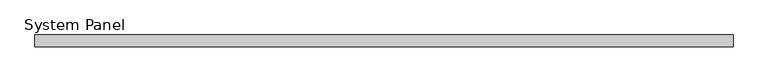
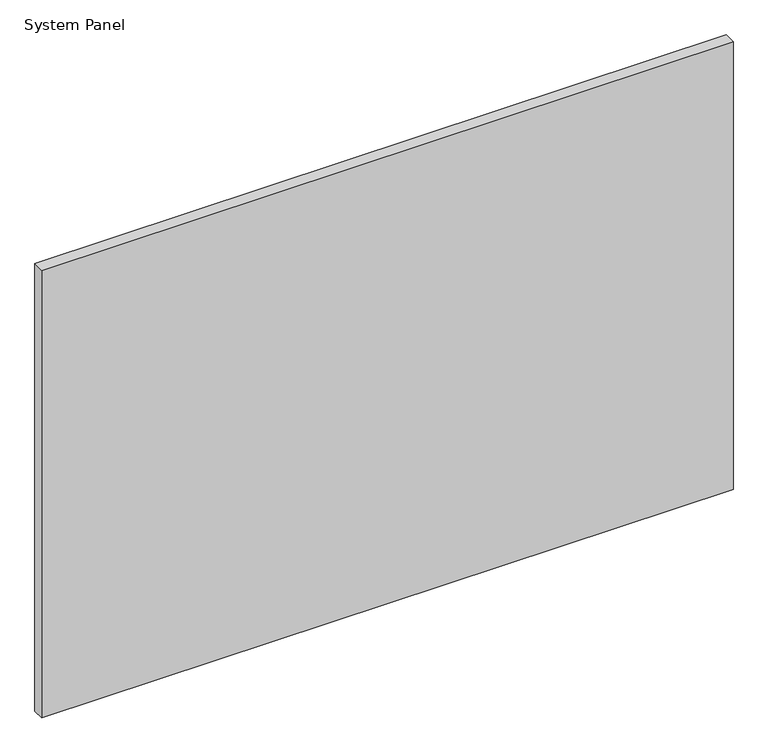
"""IFC4 building model written with IfcOpenShell, lengths in millimetres: plate geometry, System Panel : Glazed - ACMP (AL-1)."""

import ifcopenshell
import ifcopenshell.guid

model = None  # the IFC model being written
_history = None  # IfcOwnerHistory: only IFC2X3 demands one
_inside = {}  # id of a spatial element -> (the spatial element, [elements in it])
_under = {}  # id of a project, library or spatial element -> (it, [spatial elements below it])
_declared = {}  # id of a project -> (the project, [libraries it declares])
_typed = {}  # id of a type object -> (the type object, [elements of that type])
_made_of = {}  # id of a material, layer set ... -> (it, [elements and type objects made of it])


def new_model(schema):
    """Start an empty IFC model of exactly this schema.

    Asked for "IFC4X3", IfcOpenShell would pick the latest addendum, in which some entities
    have other attributes; the version numbers below select the first issue.
    IFC2X3 requires an IfcOwnerHistory on every rooted entity: one is made here for all.
    """
    global model, _history
    if schema == "IFC4X3":
        model = ifcopenshell.file(schema_version=(4, 3, 0, 0))
    else:
        model = ifcopenshell.file(schema=schema)
    _inside.clear()
    _under.clear()
    _declared.clear()
    _typed.clear()
    _made_of.clear()
    _history = None
    if model.schema == "IFC2X3":
        org = make("IfcOrganization", Name="unknown")
        user = make(
            "IfcPersonAndOrganization",
            ThePerson=make("IfcPerson", FamilyName="unknown"),
            TheOrganization=org,
        )
        app = make(
            "IfcApplication",
            ApplicationDeveloper=org,
            Version="unknown",
            ApplicationFullName="unknown",
            ApplicationIdentifier="unknown",
        )
        _history = make(
            "IfcOwnerHistory",
            OwningUser=user,
            OwningApplication=app,
            ChangeAction="ADDED",
            CreationDate=0,
        )
    return model


def make(cls, **values):
    """One entity of the class cls with the attributes given. An attribute that is None is left unset."""
    return model.create_entity(
        cls, **{name: value for name, value in values.items() if value is not None}
    )


def rooted(cls, **values):
    """An entity with a GlobalId (a new one), such as an element, a storey or a relation."""
    return make(cls, GlobalId=ifcopenshell.guid.new(), OwnerHistory=_history, **values)


def si_unit(unit_type, name, prefix=None):
    """IfcSIUnit, for example si_unit("LENGTHUNIT", "METRE", prefix="MILLI")."""
    return make("IfcSIUnit", UnitType=unit_type, Prefix=prefix, Name=name)


def assignment(units):
    """IfcUnitAssignment: the units of a project."""
    return None if units is None else make("IfcUnitAssignment", Units=units)


def point(xyz):
    """IfcCartesianPoint."""
    return None if xyz is None else make("IfcCartesianPoint", Coordinates=xyz)


def direction(xyz):
    """IfcDirection."""
    return None if xyz is None else make("IfcDirection", DirectionRatios=xyz)


def frame(location, z_axis=None, x_axis=None):
    """IfcAxis2Placement3D, a coordinate frame: its origin and axes. An axis left out is left unset."""
    return make(
        "IfcAxis2Placement3D",
        Location=point(location),
        Axis=direction(z_axis),
        RefDirection=direction(x_axis),
    )


def origin():
    """The frame at (0, 0, 0) with its axes left unset."""
    return frame((0.0, 0.0, 0.0))


def origin_with_axes():
    """The frame at (0, 0, 0) with the z axis (0, 0, 1) and the x axis (1, 0, 0) written out."""
    return frame((0.0, 0.0, 0.0), z_axis=(0.0, 0.0, 1.0), x_axis=(1.0, 0.0, 0.0))


def place(relative_to, where):
    """IfcLocalPlacement: puts the frame where relative to a parent placement (None: the world)."""
    return make(
        "IfcLocalPlacement", PlacementRelTo=relative_to, RelativePlacement=where
    )


def context(
    kind, dimensions, precision=None, world=None, true_north=None, identifier=None
):
    """IfcGeometricRepresentationContext, for example the 3D "Model" context."""
    return make(
        "IfcGeometricRepresentationContext",
        ContextIdentifier=identifier,
        ContextType=kind,
        CoordinateSpaceDimension=dimensions,
        Precision=precision,
        WorldCoordinateSystem=world,
        TrueNorth=true_north,
    )


def project(units=None, contexts=None):
    """IfcProject with its units and contexts."""
    return rooted(
        "IfcProject",
        Name="project",
        RepresentationContexts=contexts,
        UnitsInContext=assignment(units),
    )


def spatial(cls, under=None, at=None, **own):
    """A site, building, storey or space (cls), placed at a placement, below another one or the project."""
    s = rooted(cls, ObjectPlacement=at, **own)
    if under is not None:
        _under.setdefault(under.id(), (under, []))[1].append(s)
    return s


def polyline(points):
    """IfcPolyline through the points."""
    return make("IfcPolyline", Points=[point(p) for p in points])


def outline(outer, holes=None, kind="AREA"):
    """IfcArbitraryClosedProfileDef: a profile drawn as a closed curve; with holes, ...WithVoids."""
    if holes is None:
        return make("IfcArbitraryClosedProfileDef", ProfileType=kind, OuterCurve=outer)
    return make(
        "IfcArbitraryProfileDefWithVoids",
        ProfileType=kind,
        OuterCurve=outer,
        InnerCurves=holes,
    )


def extrude(swept, where, along, depth):
    """IfcExtrudedAreaSolid: the profile swept, set in the frame where, extruded along a direction by depth."""
    return make(
        "IfcExtrudedAreaSolid",
        SweptArea=swept,
        Position=where,
        ExtrudedDirection=direction(along),
        Depth=depth,
    )


def shape(context_of_items, identifier, shape_type, items):
    """IfcShapeRepresentation: the items that make up one representation, for example the "Body"."""
    return make(
        "IfcShapeRepresentation",
        ContextOfItems=context_of_items,
        RepresentationIdentifier=identifier,
        RepresentationType=shape_type,
        Items=items,
    )


def source(mapping_origin, context_of_items, identifier, shape_type, items):
    """IfcRepresentationMap: a shape defined once, which mapped items show again and again."""
    return make(
        "IfcRepresentationMap",
        MappingOrigin=mapping_origin,
        MappedRepresentation=shape(context_of_items, identifier, shape_type, items),
    )


def transform(
    local_origin,
    x_axis=None,
    y_axis=None,
    z_axis=None,
    scale=None,
    scale2=None,
    scale3=None,
    uniform=True,
):
    """IfcCartesianTransformationOperator3D, or its non-uniform kind. x_axis, y_axis, z_axis: its Axis1, 2, 3."""
    if uniform:
        return make(
            "IfcCartesianTransformationOperator3D",
            Axis1=direction(x_axis),
            Axis2=direction(y_axis),
            LocalOrigin=point(local_origin),
            Scale=scale,
            Axis3=direction(z_axis),
        )
    return make(
        "IfcCartesianTransformationOperator3DnonUniform",
        Axis1=direction(x_axis),
        Axis2=direction(y_axis),
        LocalOrigin=point(local_origin),
        Scale=scale,
        Axis3=direction(z_axis),
        Scale2=scale2,
        Scale3=scale3,
    )


def mapped(mapping_source, mapping_target):
    """IfcMappedItem: shows the shape of a source again, moved by a transform."""
    return make(
        "IfcMappedItem", MappingSource=mapping_source, MappingTarget=mapping_target
    )


def made_of(thing, what):
    """Note that an element or type object is made of a material, layer set ...; save() writes the relation."""
    if what is not None:
        _made_of.setdefault(what.id(), (what, []))[1].append(thing)
    return thing


def element(
    cls,
    number,
    at=None,
    inside=None,
    cuts=None,
    type_object=None,
    material=None,
    context=None,
    identifier="Body",
    shape_type=None,
    held_by="IfcProductDefinitionShape",
    body=None,
    shapes=None,
    **own,
):
    """One element of the class cls, such as IfcWall. Its Tag is "e" and its number.

    at: its placement. inside: the storey or other place that contains it. cuts: it is an
    opening in that element (IfcRelVoidsElement). A single representation is given by context,
    identifier, shape_type and body (its items); several are given by shapes. held_by: the class
    of the entity that holds the representations. save() writes the other relations.
    """
    e = rooted(cls, Tag="e%d" % number, ObjectPlacement=at, **own)
    if body is not None:
        shapes = [shape(context, identifier, shape_type, body)]
    if shapes is not None:
        e.Representation = make(held_by, Representations=shapes)
    if inside is not None:
        _inside.setdefault(inside.id(), (inside, []))[1].append(e)
    if cuts is not None:
        rooted(
            "IfcRelVoidsElement", RelatingBuildingElement=cuts, RelatedOpeningElement=e
        )
    if type_object is not None:
        _typed.setdefault(type_object.id(), (type_object, []))[1].append(e)
    return made_of(e, material)


def aggregate(whole, parts):
    """IfcRelAggregates: a whole, such as a stair, and the parts it consists of."""
    return rooted("IfcRelAggregates", RelatingObject=whole, RelatedObjects=parts)


def save(model, path):
    """Write the relations noted so far, then the file.

    IfcRelAggregates (storeys below a building ...), IfcRelContainedInSpatialStructure (elements
    in a storey), IfcRelDefinesByType, IfcRelAssociatesMaterial and IfcRelDeclares: one each for
    every whole, place, type object, material and project.
    """
    for whole, parts in _under.values():
        aggregate(whole, parts)
    for where, things in _inside.values():
        rooted(
            "IfcRelContainedInSpatialStructure",
            RelatedElements=things,
            RelatingStructure=where,
        )
    for kind, things in _typed.values():
        rooted("IfcRelDefinesByType", RelatedObjects=things, RelatingType=kind)
    for what, things in _made_of.values():
        rooted("IfcRelAssociatesMaterial", RelatedObjects=things, RelatingMaterial=what)
    for by, libraries in _declared.values():
        rooted("IfcRelDeclares", RelatingContext=by, RelatedDefinitions=libraries)
    model.write(path)


def system_panel_f9f92615(model_context):
    return source(origin(), model_context, "Body", "SweptSolid", [
        extrude(outline(polyline([(755.65, 0.0), (-755.65, 0.0), (-755.65, 25.4), (755.65, 25.4), (755.65, 0.0)])), origin_with_axes(), (0.0, 0.0, 1.0), 1035.0500024),
    ])


if __name__ == "__main__":
    model = new_model("IFC4")
    model_context = context("Model", 3, world=origin())
    ifc_project = project(units=[si_unit("LENGTHUNIT", "METRE", prefix="MILLI")], contexts=[model_context])
    site = spatial("IfcSite", under=ifc_project)
    building = spatial("IfcBuilding", under=site)
    placement = place(None, origin())
    system_panel_shape = system_panel_f9f92615(model_context)
    element("IfcPlate", 1, ObjectType="System Panel : Glazed - ACMP (AL-1)", at=placement, inside=building, context=model_context, shape_type="MappedRepresentation", body=[
        mapped(system_panel_shape, transform((0.0, 0.0, 0.0), x_axis=(1.0, 0.0, 0.0), y_axis=(0.0, 1.0, 0.0), z_axis=(0.0, 0.0, 1.0))),
    ])
    save(model, "model.ifc")
